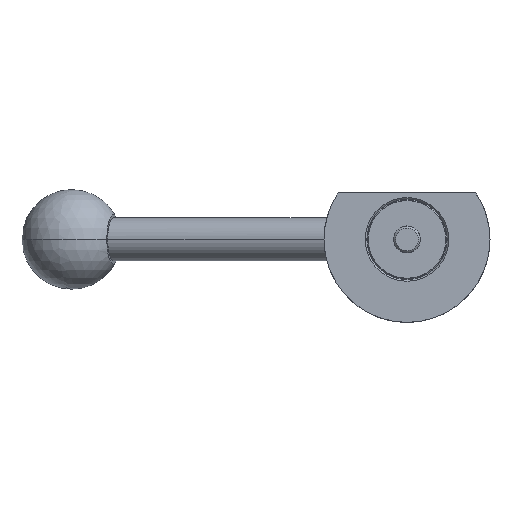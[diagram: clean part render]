
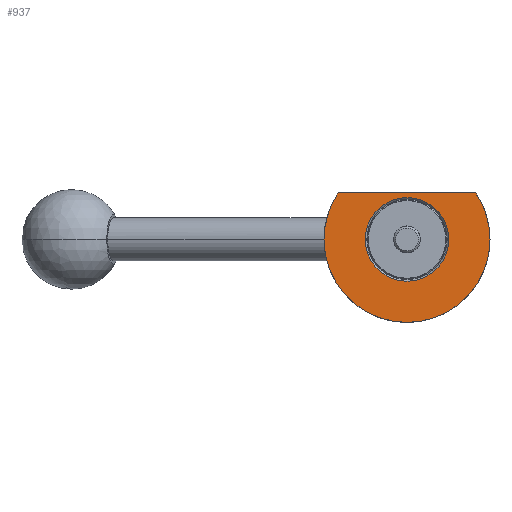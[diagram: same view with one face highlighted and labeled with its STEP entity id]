
A CAD part, front view. The second image highlights one B-rep face of the part: STEP entity #937.
In plain terms, the highlighted planar face has unit normal (0, -1, 0).
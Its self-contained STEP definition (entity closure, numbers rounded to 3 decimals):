
#33 = CARTESIAN_POINT ( 'NONE',  ( 0., -12., 0. ) ) ;
#137 = CARTESIAN_POINT ( 'NONE',  ( -12.6, -12., 14. ) ) ;
#163 = CARTESIAN_POINT ( 'NONE',  ( 0., -12., 0. ) ) ;
#191 = CARTESIAN_POINT ( 'NONE',  ( 0., -12., 0. ) ) ;
#213 = DIRECTION ( 'NONE',  ( -1., 0., 0. ) ) ;
#246 = VERTEX_POINT ( 'NONE', #333 ) ;
#298 = DIRECTION ( 'NONE',  ( 0., 1., 0. ) ) ;
#333 = CARTESIAN_POINT ( 'NONE',  ( -12.6, -12., 0. ) ) ;
#348 = ORIENTED_EDGE ( 'NONE', *, *, #468, .F. ) ;
#367 = ORIENTED_EDGE ( 'NONE', *, *, #1158, .T. ) ;
#468 = EDGE_CURVE ( 'NONE', #1891, #1608, #549, .T. ) ;
#520 = CARTESIAN_POINT ( 'NONE',  ( 20.712, -12., 14. ) ) ;
#549 = CIRCLE ( 'NONE', #1767, 25. ) ;
#579 = DIRECTION ( 'NONE',  ( 1., 0., 0. ) ) ;
#588 = CARTESIAN_POINT ( 'NONE',  ( -12.6, -12., 0. ) ) ;
#629 = LINE ( 'NONE', #137, #1858 ) ;
#664 = CARTESIAN_POINT ( 'NONE',  ( -25., -12., 0. ) ) ;
#668 = AXIS2_PLACEMENT_3D ( 'NONE', #1893, #1103, #1738 ) ;
#704 = AXIS2_PLACEMENT_3D ( 'NONE', #1869, #1108, #1744 ) ;
#708 = VERTEX_POINT ( 'NONE', #1904 ) ;
#863 = AXIS2_PLACEMENT_3D ( 'NONE', #191, #1287, #213 ) ;
#868 = ORIENTED_EDGE ( 'NONE', *, *, #2024, .T. ) ;
#896 = VERTEX_POINT ( 'NONE', #1695 ) ;
#937 = ADVANCED_FACE ( 'NONE', ( #1685, #2002 ), #1016, .T. ) ;
#951 = DIRECTION ( 'NONE',  ( -1., 0., 0. ) ) ;
#1016 = PLANE ( 'NONE',  #1456 ) ;
#1051 = EDGE_CURVE ( 'NONE', #708, #1891, #1823, .T. ) ;
#1103 = DIRECTION ( 'NONE',  ( 0., 1., 0. ) ) ;
#1108 = DIRECTION ( 'NONE',  ( 0., 1., 0. ) ) ;
#1158 = EDGE_CURVE ( 'NONE', #1536, #1608, #629, .T. ) ;
#1193 = DIRECTION ( 'NONE',  ( 0., -1., 0. ) ) ;
#1287 = DIRECTION ( 'NONE',  ( 0., 1., 0. ) ) ;
#1302 = DIRECTION ( 'NONE',  ( 0., 1., 0. ) ) ;
#1435 = CARTESIAN_POINT ( 'NONE',  ( -20.712, -12., 14. ) ) ;
#1452 = EDGE_LOOP ( 'NONE', ( #1961, #868 ) ) ;
#1456 = AXIS2_PLACEMENT_3D ( 'NONE', #588, #1193, #579 ) ;
#1520 = CIRCLE ( 'NONE', #863, 12.6 ) ;
#1536 = VERTEX_POINT ( 'NONE', #520 ) ;
#1549 = EDGE_CURVE ( 'NONE', #1536, #708, #1982, .T. ) ;
#1553 = CIRCLE ( 'NONE', #668, 12.6 ) ;
#1608 = VERTEX_POINT ( 'NONE', #1435 ) ;
#1634 = ORIENTED_EDGE ( 'NONE', *, *, #1051, .F. ) ;
#1685 = FACE_BOUND ( 'NONE', #1452, .T. ) ;
#1692 = DIRECTION ( 'NONE',  ( -1., 0., 0. ) ) ;
#1695 = CARTESIAN_POINT ( 'NONE',  ( 12.6, -12., 0. ) ) ;
#1696 = ORIENTED_EDGE ( 'NONE', *, *, #1549, .F. ) ;
#1732 = DIRECTION ( 'NONE',  ( -1., 0., 0. ) ) ;
#1738 = DIRECTION ( 'NONE',  ( -1., 0., 0. ) ) ;
#1744 = DIRECTION ( 'NONE',  ( -1., 0., 0. ) ) ;
#1767 = AXIS2_PLACEMENT_3D ( 'NONE', #163, #298, #1692 ) ;
#1823 = CIRCLE ( 'NONE', #704, 25. ) ;
#1858 = VECTOR ( 'NONE', #1732, 1000. ) ;
#1869 = CARTESIAN_POINT ( 'NONE',  ( 0., -12., 0. ) ) ;
#1891 = VERTEX_POINT ( 'NONE', #664 ) ;
#1893 = CARTESIAN_POINT ( 'NONE',  ( 0., -12., 0. ) ) ;
#1900 = EDGE_CURVE ( 'NONE', #896, #246, #1520, .T. ) ;
#1904 = CARTESIAN_POINT ( 'NONE',  ( 25., -12., 0. ) ) ;
#1919 = EDGE_LOOP ( 'NONE', ( #1696, #367, #348, #1634 ) ) ;
#1951 = AXIS2_PLACEMENT_3D ( 'NONE', #33, #1302, #951 ) ;
#1961 = ORIENTED_EDGE ( 'NONE', *, *, #1900, .T. ) ;
#1982 = CIRCLE ( 'NONE', #1951, 25. ) ;
#2002 = FACE_OUTER_BOUND ( 'NONE', #1919, .T. ) ;
#2024 = EDGE_CURVE ( 'NONE', #246, #896, #1553, .T. ) ;
